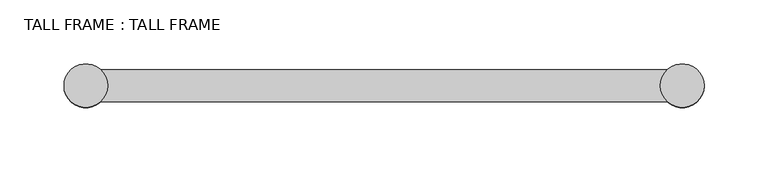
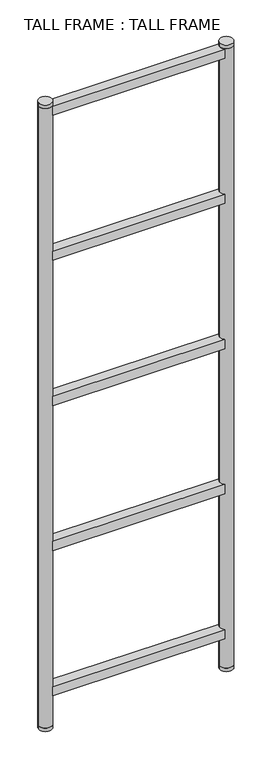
"""IFC4 building model written with IfcOpenShell, lengths in millimetres: furniture geometry, TALL FRAME : TALL FRAME."""

from ifc_helpers import new_model, si_unit, point, frame, frame_2d, origin, origin_with_axes, place, context, project, spatial, polyline, circle_curve, trimmed, segment, composite_curve, outline, extrude, source, transform, mapped, element, save


def tall_frame_tall_frame_8fbd280d(model_context):
    return source(origin(), model_context, "Body", "SweptSolid", [
        extrude(outline(composite_curve([segment(trimmed(circle_curve(frame_2d((233.0, 0.0)), 17.0), [point((221.4782814, 12.5))], [point((221.4782814, -12.5))], True, "CARTESIAN"), True, "CONTINUOUS"), segment(polyline([(221.4782814, -12.5), (-221.4782814, -12.5)]), True, "CONTINUOUS"), segment(trimmed(circle_curve(frame_2d((-233.0, 0.0)), 17.0), [point((-221.4782814, -12.5))], [point((-221.4782814, 12.5))], True, "CARTESIAN"), True, "CONTINUOUS"), segment(polyline([(-221.4782814, 12.5), (221.4782814, 12.5)]), True, "CONTINUOUS")], self_intersect=False)), frame((0.0, 0.0, 1669.0), z_axis=(0.0, 0.0, 1.0), x_axis=(1.0, 0.0, 0.0)), (0.0, 0.0, 1.0), 25.0),
        extrude(outline(composite_curve([segment(trimmed(circle_curve(frame_2d((233.0, 0.0)), 17.0), [point((221.4782814, 12.5))], [point((221.4782814, -12.5))], True, "CARTESIAN"), True, "CONTINUOUS"), segment(polyline([(221.4782814, -12.5), (-221.4782814, -12.5)]), True, "CONTINUOUS"), segment(trimmed(circle_curve(frame_2d((-233.0, 0.0)), 17.0), [point((-221.4782814, -12.5))], [point((-221.4782814, 12.5))], True, "CARTESIAN"), True, "CONTINUOUS"), segment(polyline([(-221.4782814, 12.5), (221.4782814, 12.5)]), True, "CONTINUOUS")], self_intersect=False)), frame((0.0, 0.0, 1274.0), z_axis=(0.0, 0.0, 1.0), x_axis=(1.0, 0.0, 0.0)), (0.0, 0.0, 1.0), 25.0),
        extrude(outline(composite_curve([segment(trimmed(circle_curve(frame_2d((233.0, 0.0)), 17.0), [point((221.4782814, 12.5))], [point((221.4782814, -12.5))], True, "CARTESIAN"), True, "CONTINUOUS"), segment(polyline([(221.4782814, -12.5), (-221.4782814, -12.5)]), True, "CONTINUOUS"), segment(trimmed(circle_curve(frame_2d((-233.0, 0.0)), 17.0), [point((-221.4782814, -12.5))], [point((-221.4782814, 12.5))], True, "CARTESIAN"), True, "CONTINUOUS"), segment(polyline([(-221.4782814, 12.5), (221.4782814, 12.5)]), True, "CONTINUOUS")], self_intersect=False)), frame((0.0, 0.0, 879.0), z_axis=(0.0, 0.0, 1.0), x_axis=(1.0, 0.0, 0.0)), (0.0, 0.0, 1.0), 25.0),
        extrude(outline(composite_curve([segment(trimmed(circle_curve(frame_2d((233.0, 0.0)), 17.0), [point((221.4782814, 12.5))], [point((221.4782814, -12.5))], True, "CARTESIAN"), True, "CONTINUOUS"), segment(polyline([(221.4782814, -12.5), (-221.4782814, -12.5)]), True, "CONTINUOUS"), segment(trimmed(circle_curve(frame_2d((-233.0, 0.0)), 17.0), [point((-221.4782814, -12.5))], [point((-221.4782814, 12.5))], True, "CARTESIAN"), True, "CONTINUOUS"), segment(polyline([(-221.4782814, 12.5), (221.4782814, 12.5)]), True, "CONTINUOUS")], self_intersect=False)), frame((0.0, 0.0, 484.0), z_axis=(0.0, 0.0, 1.0), x_axis=(1.0, 0.0, 0.0)), (0.0, 0.0, 1.0), 25.0),
        extrude(outline(composite_curve([segment(trimmed(circle_curve(frame_2d((233.0, 0.0)), 17.0), [point((221.4782814, 12.5))], [point((221.4782814, -12.5))], True, "CARTESIAN"), True, "CONTINUOUS"), segment(polyline([(221.4782814, -12.5), (-221.4782814, -12.5)]), True, "CONTINUOUS"), segment(trimmed(circle_curve(frame_2d((-233.0, 0.0)), 17.0), [point((-221.4782814, -12.5))], [point((-221.4782814, 12.5))], True, "CARTESIAN"), True, "CONTINUOUS"), segment(polyline([(-221.4782814, 12.5), (221.4782814, 12.5)]), True, "CONTINUOUS")], self_intersect=False)), frame((0.0, 0.0, 89.0), z_axis=(0.0, 0.0, 1.0), x_axis=(1.0, 0.0, 0.0)), (0.0, 0.0, 1.0), 25.0),
        extrude(outline(composite_curve([segment(trimmed(circle_curve(frame_2d((-233.0, 0.0)), 17.0), [point((-216.0, 0.0))], [point((-250.0, 0.0))], False, "CARTESIAN"), True, "CONTINUOUS"), segment(trimmed(circle_curve(frame_2d((-233.0, 0.0)), 17.0), [point((-250.0, 0.0))], [point((-216.0, 0.0))], False, "CARTESIAN"), True, "CONTINUOUS")], self_intersect=False)), frame((0.0, 0.0, 1696.0), z_axis=(0.0, 0.0, 1.0), x_axis=(1.0, 0.0, 0.0)), (0.0, 0.0, 1.0), 9.0),
        extrude(outline(composite_curve([segment(trimmed(circle_curve(frame_2d((-233.0, 0.0)), 17.0), [point((-216.0, 0.0))], [point((-250.0, 0.0))], False, "CARTESIAN"), True, "CONTINUOUS"), segment(trimmed(circle_curve(frame_2d((-233.0, 0.0)), 17.0), [point((-250.0, 0.0))], [point((-216.0, 0.0))], False, "CARTESIAN"), True, "CONTINUOUS")], self_intersect=False)), origin_with_axes(), (0.0, 0.0, 1.0), 9.0),
        extrude(outline(composite_curve([segment(trimmed(circle_curve(frame_2d((-233.0, 0.0)), 17.0), [point((-216.0, 0.0))], [point((-250.0, 0.0))], False, "CARTESIAN"), True, "CONTINUOUS"), segment(trimmed(circle_curve(frame_2d((-233.0, 0.0)), 17.0), [point((-250.0, 0.0))], [point((-216.0, 0.0))], False, "CARTESIAN"), True, "CONTINUOUS")], self_intersect=False)), frame((0.0, 0.0, 9.0), z_axis=(0.0, 0.0, 1.0), x_axis=(1.0, 0.0, 0.0)), (0.0, 0.0, 1.0), 1687.0),
        extrude(outline(composite_curve([segment(trimmed(circle_curve(frame_2d((233.0, 0.0)), 17.0), [point((216.0, 0.0))], [point((250.0, 0.0))], False, "CARTESIAN"), True, "CONTINUOUS"), segment(trimmed(circle_curve(frame_2d((233.0, 0.0)), 17.0), [point((250.0, 0.0))], [point((216.0, 0.0))], False, "CARTESIAN"), True, "CONTINUOUS")], self_intersect=False)), frame((0.0, 0.0, 1696.0), z_axis=(0.0, 0.0, 1.0), x_axis=(1.0, 0.0, 0.0)), (0.0, 0.0, 1.0), 9.0),
        extrude(outline(composite_curve([segment(trimmed(circle_curve(frame_2d((233.0, 0.0)), 17.0), [point((216.0, 0.0))], [point((250.0, 0.0))], False, "CARTESIAN"), True, "CONTINUOUS"), segment(trimmed(circle_curve(frame_2d((233.0, 0.0)), 17.0), [point((250.0, 0.0))], [point((216.0, 0.0))], False, "CARTESIAN"), True, "CONTINUOUS")], self_intersect=False)), origin_with_axes(), (0.0, 0.0, 1.0), 9.0),
        extrude(outline(composite_curve([segment(trimmed(circle_curve(frame_2d((233.0, 0.0)), 17.0), [point((216.0, 0.0))], [point((250.0, 0.0))], False, "CARTESIAN"), True, "CONTINUOUS"), segment(trimmed(circle_curve(frame_2d((233.0, 0.0)), 17.0), [point((250.0, 0.0))], [point((216.0, 0.0))], False, "CARTESIAN"), True, "CONTINUOUS")], self_intersect=False)), frame((0.0, 0.0, 9.0), z_axis=(0.0, 0.0, 1.0), x_axis=(1.0, 0.0, 0.0)), (0.0, 0.0, 1.0), 1687.0),
    ])


if __name__ == "__main__":
    model = new_model("IFC4")
    model_context = context("Model", 3, world=origin())
    ifc_project = project(units=[si_unit("LENGTHUNIT", "METRE", prefix="MILLI")], contexts=[model_context])
    site = spatial("IfcSite", under=ifc_project)
    building = spatial("IfcBuilding", under=site)
    placement = place(None, origin())
    tall_frame_tall_frame_shape = tall_frame_tall_frame_8fbd280d(model_context)
    element("IfcFurniture", 1, ObjectType="TALL FRAME : TALL FRAME", at=placement, inside=building, context=model_context, shape_type="MappedRepresentation", body=[
        mapped(tall_frame_tall_frame_shape, transform((0.0, 0.0, 0.0), x_axis=(1.0, 0.0, 0.0), y_axis=(0.0, 1.0, 0.0), z_axis=(0.0, 0.0, 1.0))),
    ])
    save(model, "model.ifc")
